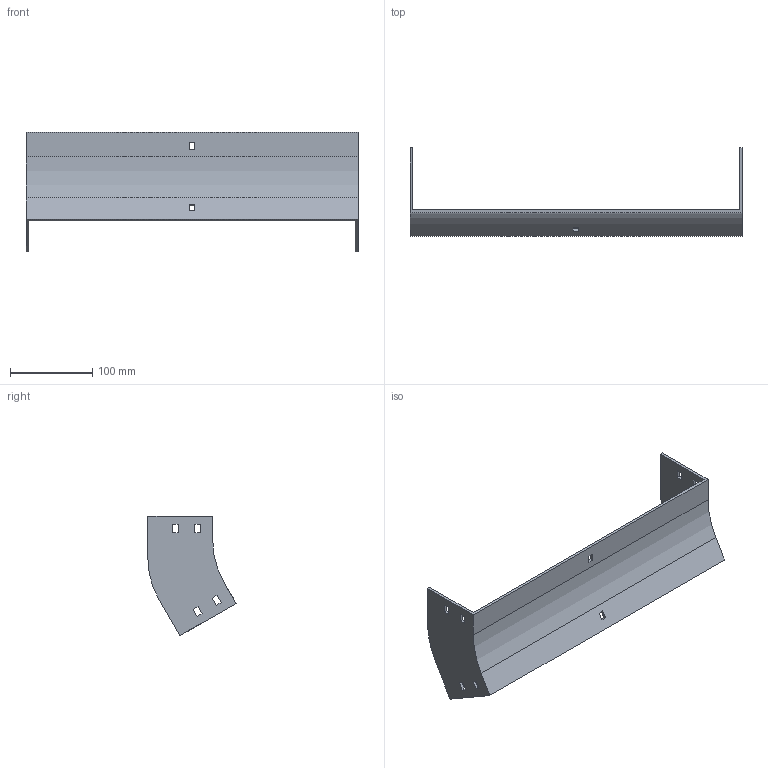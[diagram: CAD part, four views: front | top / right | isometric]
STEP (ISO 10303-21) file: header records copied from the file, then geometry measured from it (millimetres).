
FILE_DESCRIPTION (( 'STEP AP214' ), '1' );
FILE_NAME ('35F1C400.step', '2025-02-21T12:50:03', ( '' ), ( '' ), 'SwSTEP 2.0', 'SolidWorks 2023', '' );
FILE_SCHEMA (( 'AUTOMOTIVE_DESIGN' ));
Length unit declared in the file: millimetre
Products named in the file (1): 35F1C400
Bounding box: 404 x 107.4 x 145.48 mm (x, y, z)
Volume: 229548.8 mm3; surface area: 137301.2 mm2
Topology: 1 solids, 1 shells, 58 faces, 168 edges, 112 vertices
Faces by surface type: plane 54, cylinder 4
Entity records: 1943 total; most frequent: CARTESIAN_POINT 339, ORIENTED_EDGE 336, DIRECTION 294, EDGE_CURVE 168, VECTOR 160, LINE 160, VERTEX_POINT 112, EDGE_LOOP 78
